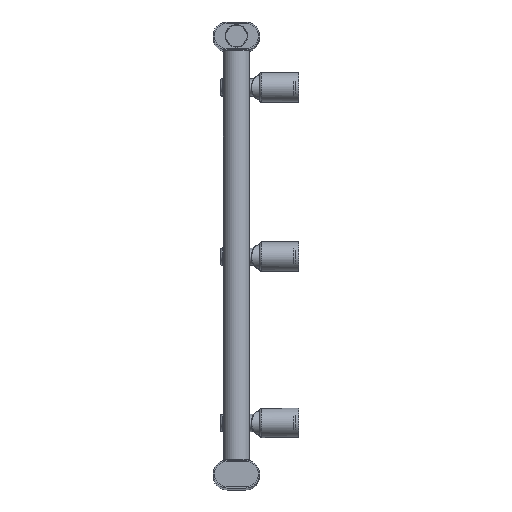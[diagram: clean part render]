
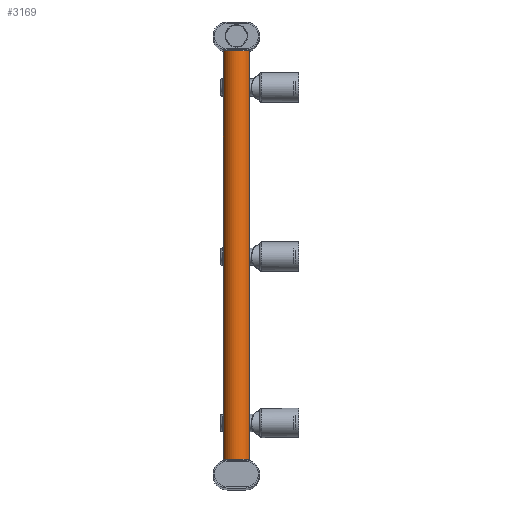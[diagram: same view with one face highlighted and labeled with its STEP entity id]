
A CAD part, top view. The second image highlights one B-rep face of the part: STEP entity #3169.
In plain terms, the highlighted cylindrical face has radius 14 mm (diameter 28 mm), a full revolution.
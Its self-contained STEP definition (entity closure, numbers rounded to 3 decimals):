
#720=FACE_BOUND('',#1000,.T.);
#819=FACE_OUTER_BOUND('',#999,.T.);
#999=EDGE_LOOP('',(#2754));
#1000=EDGE_LOOP('',(#2755));
#1186=CIRCLE('',#3512,14.);
#1187=CIRCLE('',#3514,14.);
#1561=VERTEX_POINT('',#6771);
#1562=VERTEX_POINT('',#6774);
#1978=EDGE_CURVE('',#1561,#1561,#1186,.T.);
#1979=EDGE_CURVE('',#1562,#1562,#1187,.T.);
#2754=ORIENTED_EDGE('',*,*,#1978,.F.);
#2755=ORIENTED_EDGE('',*,*,#1979,.T.);
#3074=CYLINDRICAL_SURFACE('',#3513,14.);
#3169=ADVANCED_FACE('',(#819,#720),#3074,.T.);
#3512=AXIS2_PLACEMENT_3D('',#6772,#4163,#4164);
#3513=AXIS2_PLACEMENT_3D('',#6773,#4165,#4166);
#3514=AXIS2_PLACEMENT_3D('',#6775,#4167,#4168);
#4163=DIRECTION('center_axis',(1.,0.,0.));
#4164=DIRECTION('ref_axis',(0.,0.,-1.));
#4165=DIRECTION('center_axis',(1.,0.,0.));
#4166=DIRECTION('ref_axis',(0.,1.,0.));
#4167=DIRECTION('center_axis',(1.,0.,0.));
#4168=DIRECTION('ref_axis',(0.,0.,-1.));
#6771=CARTESIAN_POINT('',(219.,14.,0.));
#6772=CARTESIAN_POINT('Origin',(219.,0.,0.));
#6773=CARTESIAN_POINT('Origin',(-109.5,0.,0.));
#6774=CARTESIAN_POINT('',(-219.,14.,0.));
#6775=CARTESIAN_POINT('Origin',(-219.,0.,0.));
